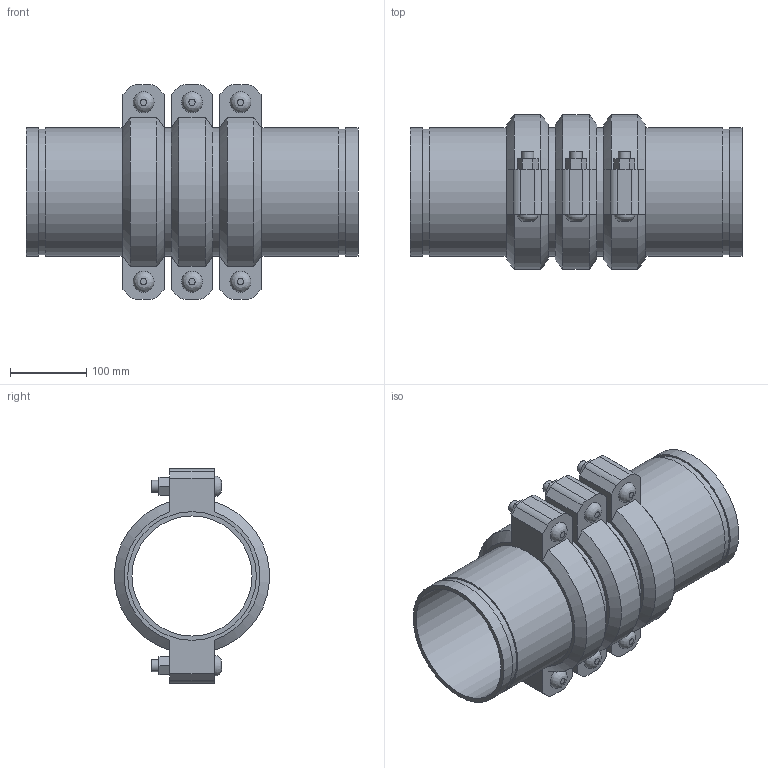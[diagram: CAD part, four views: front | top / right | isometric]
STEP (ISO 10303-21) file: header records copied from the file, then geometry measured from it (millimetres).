
FILE_DESCRIPTION(/* description */ ('VIC SS EXPANSION JOINT 3 COUPLINGS NEUTRAL STYLE 155P (OGS) (POTABLE WATER) ','CAx-IF Rec.Pracs.---Representation and Presentation of Product Manufacturing Information (PMI)---4.0---2014-10-13'),/* implementation_level */ '2;1');
FILE_NAME(/* name */ 'C:\Users\kkamble\AppData\Roaming\Autodesk\ApplicationPlugins\Victaulic.Temp\A227\Victaulic_SS_Expansion Joint_Neutral_3 Couplings_Style 155P (OGS)-Potable Water_3 Coup_Neut_6 (150).stp',/* time_stamp */ '2021-07-16T16:32:24+05:00',/* author */ ('kkamble'),/* organization */ ('Victaulic'),/* preprocessor_version */ 'ST-DEVELOPER v17.2',/* originating_system */ 'Autodesk Inventor 2019',/* authorisation */ '');
FILE_SCHEMA (('AP242_MANAGED_MODEL_BASED_3D_ENGINEERING_MIM_LF { 1 0 10303 442 1 1 4 }'));
Length unit declared in the file: inch
Products named in the file (4): 155P-06.0; Nipple-06.0; Nipple-06.0_1; 075-06.0
Assembly tree (7 placements, depth 2):
  155P-06.0
    Nipple-06.0  x2
    Nipple-06.0_1  x2
    075-06.0  x3
Bounding box: 434.59 x 202.46 x 281.18 mm (x, y, z)
Volume: 3389752.2 mm3; surface area: 814543.2 mm2
Topology: 7 solids, 13 shells, 219 faces, 519 edges, 366 vertices
Faces by surface type: plane 132, cylinder 69, cone 12, bspline 6
Full cylindrical faces by diameter (mm): 15.875 x12, 17.424 x6, 157.15 x4, 161.925 x3, 163.957 x8, 168.275 x18
Entity records: 2769 total; most frequent: CARTESIAN_POINT 491, DIRECTION 457, ORIENTED_EDGE 386, EDGE_CURVE 193, AXIS2_PLACEMENT_3D 182, VERTEX_POINT 138, EDGE_LOOP 107, LINE 93
